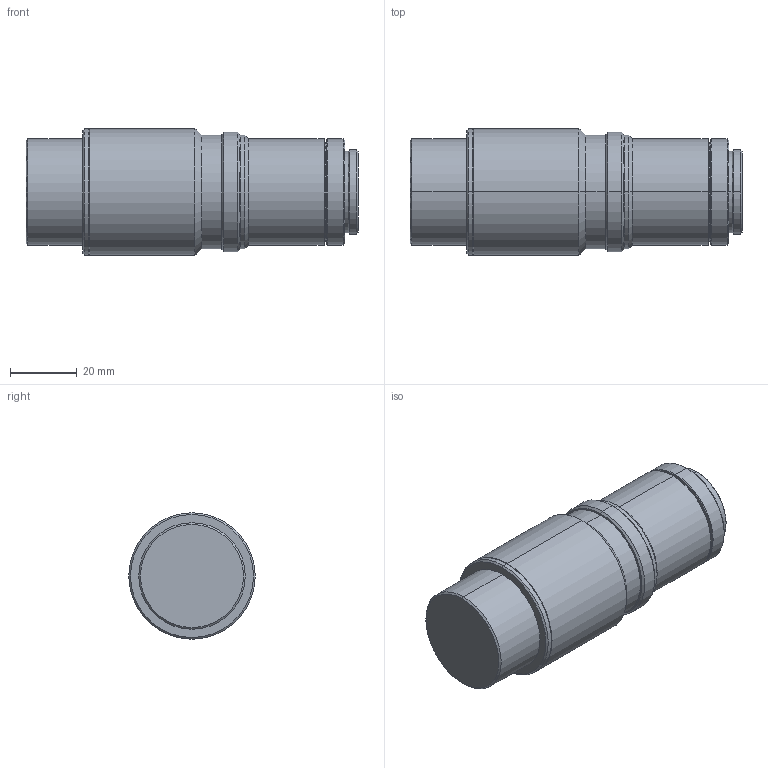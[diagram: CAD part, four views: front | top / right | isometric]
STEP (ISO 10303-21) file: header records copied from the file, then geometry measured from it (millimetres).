
FILE_DESCRIPTION (( 'STEP AP214' ), '1' );
FILE_NAME ('VS-TCM2-65_S.STEP', '2019-04-09T01:37:48', ( '' ), ( '' ), 'SwSTEP 2.0', 'SolidWorks 2018', '' );
FILE_SCHEMA (( 'AUTOMOTIVE_DESIGN' ));
Length unit declared in the file: millimetre
Products named in the file (1): VS-TCM2-65_S
Bounding box: 99.8 x 38 x 38 mm (x, y, z)
Volume: 92455.4 mm3; surface area: 13093.8 mm2
Topology: 1 solids, 1 shells, 64 faces, 126 edges, 70 vertices
Faces by surface type: cone 32, cylinder 24, plane 8
Entity records: 1658 total; most frequent: DIRECTION 326, CARTESIAN_POINT 261, ORIENTED_EDGE 252, AXIS2_PLACEMENT_3D 135, EDGE_CURVE 126, EDGE_LOOP 70, VERTEX_POINT 70, CIRCLE 70
